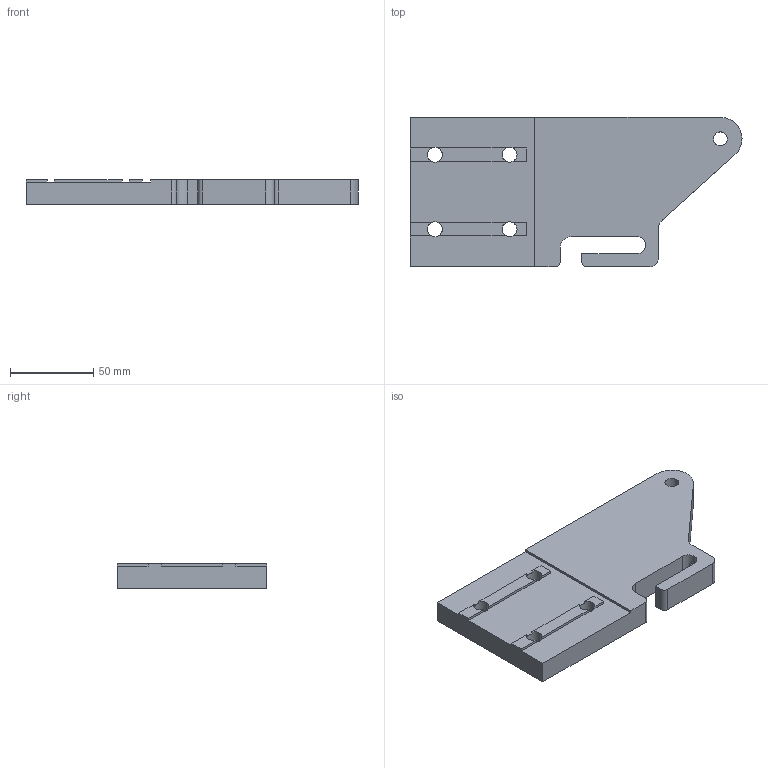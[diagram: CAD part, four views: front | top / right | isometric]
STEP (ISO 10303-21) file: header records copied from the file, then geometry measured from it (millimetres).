
FILE_DESCRIPTION (( 'STEP AP203' ), '1' );
FILE_NAME ('456.015.101.STEP', '2013-01-29T13:58:17', ( 'Alusic' ), ( 'Alusic' ), 'SwSTEP 2.0', 'SolidWorks 2011', '' );
FILE_SCHEMA (( 'CONFIG_CONTROL_DESIGN' ));
Length unit declared in the file: millimetre
Products named in the file (1): 456.015.101
Bounding box: 200 x 90 x 15 mm (x, y, z)
Volume: 207738.1 mm3; surface area: 41495.5 mm2
Topology: 1 solids, 1 shells, 67 faces, 193 edges, 128 vertices
Faces by surface type: plane 38, cylinder 27, cone 2
Entity records: 2380 total; most frequent: CARTESIAN_POINT 451, DIRECTION 397, ORIENTED_EDGE 386, EDGE_CURVE 193, AXIS2_PLACEMENT_3D 138, VERTEX_POINT 128, LINE 121, VECTOR 121
